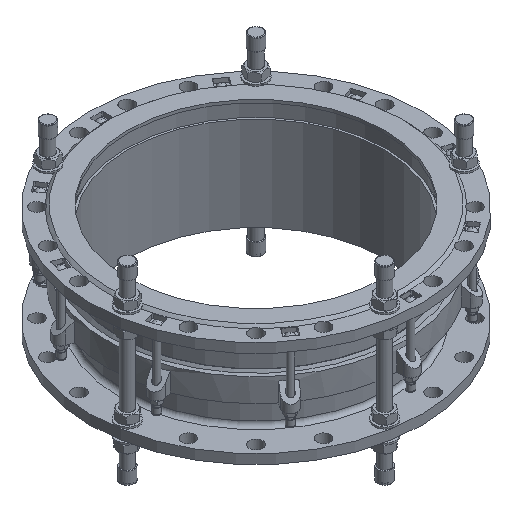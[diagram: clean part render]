
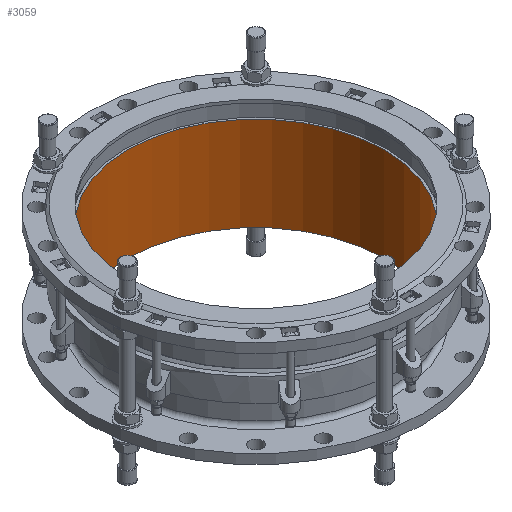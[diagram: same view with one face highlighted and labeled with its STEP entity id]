
A CAD part, isometric view. The second image highlights one B-rep face of the part: STEP entity #3059.
In plain terms, the highlighted cylindrical face has radius 300 mm (diameter 600 mm), a full revolution.
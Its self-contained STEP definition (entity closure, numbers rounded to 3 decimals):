
#3059=ADVANCED_FACE('',(#3816,#3818),#3820,.F.);
#3816=FACE_OUTER_BOUND('',#3817,.T.);
#3817=EDGE_LOOP('',(#6852));
#3818=FACE_OUTER_BOUND('',#3819,.T.);
#3819=EDGE_LOOP('',(#6853));
#3820=CYLINDRICAL_SURFACE('',#3821,300.);
#3821=AXIS2_PLACEMENT_3D('',#3822,#3823,#3824);
#3822=CARTESIAN_POINT('',(0.,0.,0.));
#3823=DIRECTION('',(0.,0.,1.));
#3824=DIRECTION('',(-1.,0.,0.));
#6852=ORIENTED_EDGE('',*,*,#8947,.F.);
#6853=ORIENTED_EDGE('',*,*,#8948,.F.);
#8947=EDGE_CURVE('',#9910,#9910,#9911,.T.);
#8948=EDGE_CURVE('',#9912,#9912,#9913,.T.);
#9910=VERTEX_POINT('',#11569);
#9911=CIRCLE('',#11570,300.);
#9912=VERTEX_POINT('',#11574);
#9913=CIRCLE('',#11575,300.);
#11569=CARTESIAN_POINT('',(-300.,0.,220.));
#11570=AXIS2_PLACEMENT_3D('',#11571,#11572,#11573);
#11571=CARTESIAN_POINT('',(0.,0.,220.));
#11572=DIRECTION('',(0.,0.,-1.));
#11573=DIRECTION('',(-1.,0.,0.));
#11574=CARTESIAN_POINT('',(-300.,0.,0.));
#11575=AXIS2_PLACEMENT_3D('',#11576,#11577,#11578);
#11576=CARTESIAN_POINT('',(0.,0.,0.));
#11577=DIRECTION('',(0.,0.,1.));
#11578=DIRECTION('',(-1.,0.,0.));
